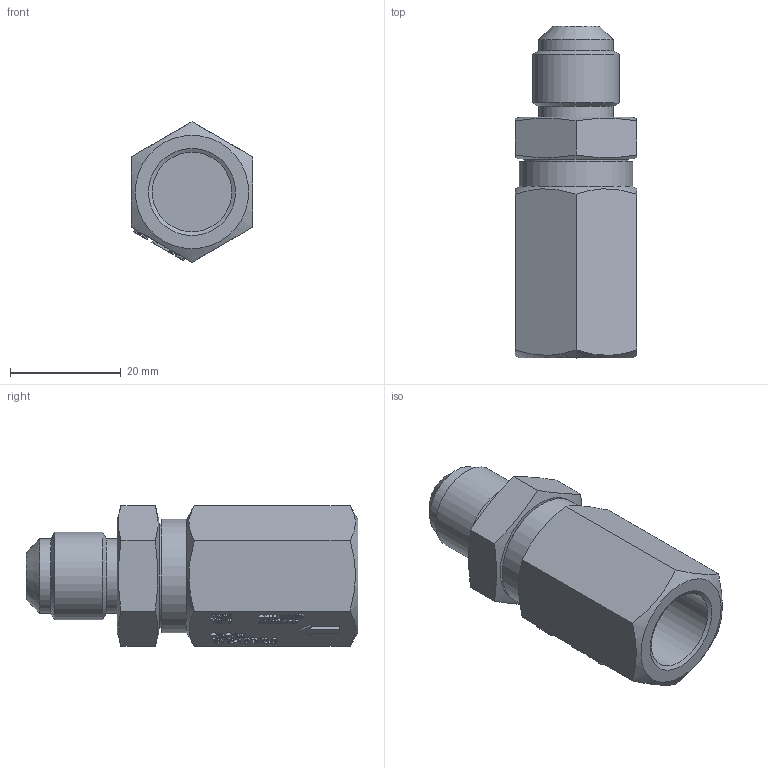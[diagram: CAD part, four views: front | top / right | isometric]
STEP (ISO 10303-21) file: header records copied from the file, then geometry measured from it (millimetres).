
FILE_DESCRIPTION(/* description */ (''),/* implementation_level */ '2;1');
FILE_NAME(/* name */ 'P:\RV\RV2-10B-2,5\RV2-10B-2,5.stp',/* time_stamp */ '2017-10-05T09:05:11+02:00',/* author */ ('neufeld'),/* organization */ (''),/* preprocessor_version */ 'ST-DEVELOPER v16.1',/* originating_system */ 'Autodesk Inventor 2016',/* authorisation */ '');
FILE_SCHEMA (('AUTOMOTIVE_DESIGN { 1 0 10303 214 3 1 1 }'));
Length unit declared in the file: millimetre
Products named in the file (3): RV2-10B-2,5_1; RV2-10B-2,5; RV2-10B-2,5_2
Assembly tree (2 placements, depth 2):
  RV2-10B-2,5_2
    RV2-10B-2,5_1
    RV2-10B-2,5
Bounding box: 22 x 60 x 25.4 mm (x, y, z)
Volume: 17837.9 mm3; surface area: 6025.5 mm2
Topology: 1 solids, 1 shells, 794 faces, 2161 edges, 1438 vertices
Faces by surface type: plane 547, bspline 231, cylinder 8, cone 8
Full cylindrical faces by diameter (mm): 7 x1, 13.5 x2, 14.4 x1, 15.745 x1, 18.8 x1, 19.05 x1, 20.5 x1
Entity records: 26604 total; most frequent: CARTESIAN_POINT 8190, ORIENTED_EDGE 4284, DIRECTION 2813, EDGE_CURVE 2142, LINE 1635, VECTOR 1635, VERTEX_POINT 1435, EDGE_LOOP 879
